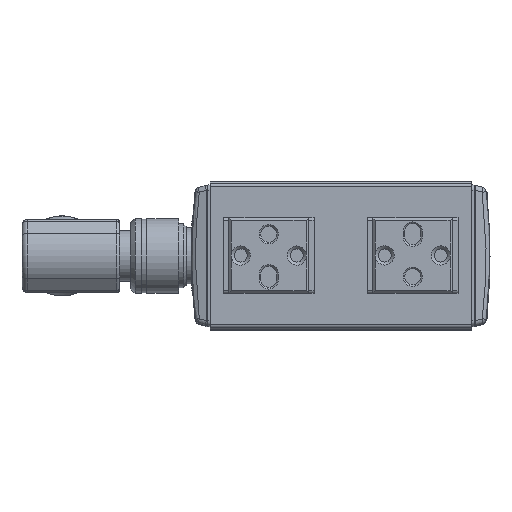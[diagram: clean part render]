
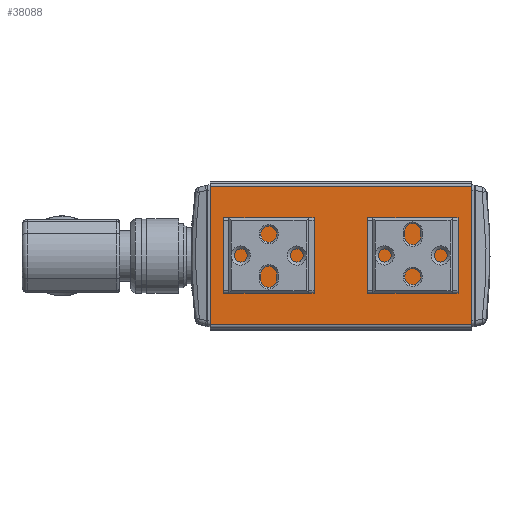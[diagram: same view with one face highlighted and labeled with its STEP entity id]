
A CAD part, top view. The second image highlights one B-rep face of the part: STEP entity #38088.
In plain terms, the highlighted planar face has unit normal (0, 0, 1).
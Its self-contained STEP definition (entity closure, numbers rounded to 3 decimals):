
#6605=FACE_OUTER_BOUND('',#8738,.T.);
#8738=EDGE_LOOP('',(#26918,#26919,#26920,#26921));
#11052=LINE('',#57545,#13717);
#11078=LINE('',#57626,#13743);
#11104=LINE('',#57705,#13769);
#11105=LINE('',#57706,#13770);
#13717=VECTOR('',#45744,10.);
#13743=VECTOR('',#45800,10.);
#13769=VECTOR('',#45856,10.);
#13770=VECTOR('',#45857,10.);
#16597=VERTEX_POINT('',#57543);
#16598=VERTEX_POINT('',#57544);
#16637=VERTEX_POINT('',#57624);
#16638=VERTEX_POINT('',#57625);
#20560=EDGE_CURVE('',#16597,#16598,#11052,.T.);
#20600=EDGE_CURVE('',#16637,#16638,#11078,.T.);
#20640=EDGE_CURVE('',#16638,#16597,#11104,.T.);
#20641=EDGE_CURVE('',#16598,#16637,#11105,.T.);
#26918=ORIENTED_EDGE('',*,*,#20560,.F.);
#26919=ORIENTED_EDGE('',*,*,#20640,.F.);
#26920=ORIENTED_EDGE('',*,*,#20600,.F.);
#26921=ORIENTED_EDGE('',*,*,#20641,.F.);
#36905=PLANE('',#40681);
#38088=ADVANCED_FACE('',(#6605),#36905,.T.);
#40681=AXIS2_PLACEMENT_3D('',#57704,#45854,#45855);
#45744=DIRECTION('',(0.,1.,0.));
#45800=DIRECTION('',(0.,-1.,0.));
#45854=DIRECTION('center_axis',(0.,0.,
1.));
#45855=DIRECTION('ref_axis',(0.,-1.,0.));
#45856=DIRECTION('',(-1.,0.,0.));
#45857=DIRECTION('',(1.,0.,0.));
#57543=CARTESIAN_POINT('',(-24.5,-13.,76.5));
#57544=CARTESIAN_POINT('',(-24.5,13.,76.5));
#57545=CARTESIAN_POINT('',(-24.5,13.5,76.5));
#57624=CARTESIAN_POINT('',(24.5,13.,76.5));
#57625=CARTESIAN_POINT('',(24.5,-13.,76.5));
#57626=CARTESIAN_POINT('',(24.5,13.5,76.5));
#57704=CARTESIAN_POINT('Origin',(0.,13.5,76.5));
#57705=CARTESIAN_POINT('',(0.,-13.,76.5));
#57706=CARTESIAN_POINT('',(0.,13.,76.5));
